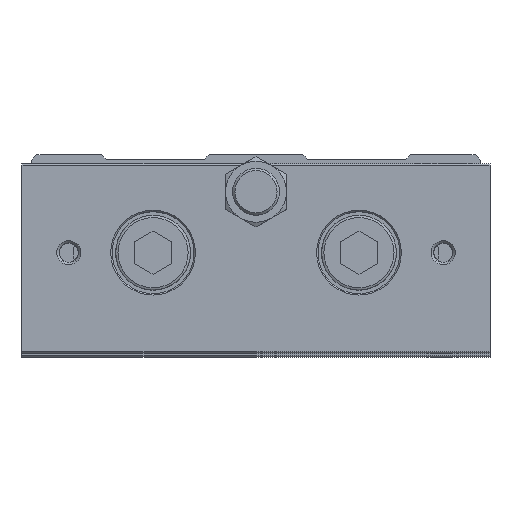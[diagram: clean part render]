
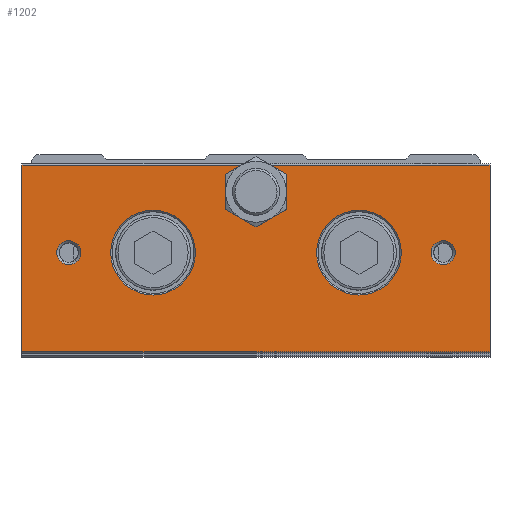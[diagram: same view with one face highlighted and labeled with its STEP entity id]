
A CAD part, top view. The second image highlights one B-rep face of the part: STEP entity #1202.
In plain terms, the highlighted planar face has unit normal (0, 0, 1).
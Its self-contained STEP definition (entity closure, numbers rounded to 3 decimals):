
#1044=CARTESIAN_POINT('',(42.567,-0.75,287.5));
#1045=VERTEX_POINT('',#1044);
#1046=CARTESIAN_POINT('',(40.0,-0.75,287.5));
#1047=DIRECTION('',(0.0,0.0,1.0));
#1048=DIRECTION('',(-1.0,0.0,0.0));
#1049=AXIS2_PLACEMENT_3D('',#1046,#1047,#1048);
#1050=CIRCLE('',#1049,2.567);
#1051=EDGE_CURVE('',#1045,#1045,#1050,.T.);
#1056=CARTESIAN_POINT('',(0.0,-22.25,287.5));
#1057=DIRECTION('',(0.0,0.0,1.0));
#1058=DIRECTION('',(1.0,0.0,0.0));
#1059=AXIS2_PLACEMENT_3D('',#1056,#1057,#1058);
#1060=PLANE('',#1059);
#1061=CARTESIAN_POINT('',(50.0,-21.95,287.5));
#1062=VERTEX_POINT('',#1061);
#1063=CARTESIAN_POINT('',(-50.0,-21.95,287.5));
#1064=VERTEX_POINT('',#1063);
#1065=CARTESIAN_POINT('',(50.0,-21.95,287.5));
#1066=DIRECTION('',(-1.0,0.0,0.0));
#1067=VECTOR('',#1066,100.0);
#1068=LINE('',#1065,#1067);
#1069=EDGE_CURVE('',#1062,#1064,#1068,.T.);
#1070=ORIENTED_EDGE('',*,*,#1069,.F.);
#1071=CARTESIAN_POINT('',(50.0,17.95,287.5));
#1072=VERTEX_POINT('',#1071);
#1073=CARTESIAN_POINT('',(50.0,-21.95,287.5));
#1074=DIRECTION('',(0.0,1.0,0.0));
#1075=VECTOR('',#1074,39.9);
#1076=LINE('',#1073,#1075);
#1077=EDGE_CURVE('',#1062,#1072,#1076,.T.);
#1078=ORIENTED_EDGE('',*,*,#1077,.T.);
#1079=CARTESIAN_POINT('',(3.124,17.95,287.5));
#1080=VERTEX_POINT('',#1079);
#1081=CARTESIAN_POINT('',(3.124,17.95,287.5));
#1082=DIRECTION('',(1.0,0.0,0.0));
#1083=VECTOR('',#1082,46.876);
#1084=LINE('',#1081,#1083);
#1085=EDGE_CURVE('',#1080,#1072,#1084,.T.);
#1086=ORIENTED_EDGE('',*,*,#1085,.F.);
#1087=CARTESIAN_POINT('',(3.25,17.879,287.5));
#1088=VERTEX_POINT('',#1087);
#1089=CARTESIAN_POINT('',(0.0,12.25,287.5));
#1090=DIRECTION('',(0.0,0.0,1.0));
#1091=DIRECTION('',(0.0,1.0,0.0));
#1092=AXIS2_PLACEMENT_3D('',#1089,#1090,#1091);
#1093=CIRCLE('',#1092,6.5);
#1094=EDGE_CURVE('',#1088,#1080,#1093,.T.);
#1095=ORIENTED_EDGE('',*,*,#1094,.F.);
#1096=CARTESIAN_POINT('',(6.5,12.25,287.5));
#1097=VERTEX_POINT('',#1096);
#1098=CARTESIAN_POINT('',(0.0,12.25,287.5));
#1099=DIRECTION('',(0.0,0.0,1.0));
#1100=DIRECTION('',(0.0,1.0,0.0));
#1101=AXIS2_PLACEMENT_3D('',#1098,#1099,#1100);
#1102=CIRCLE('',#1101,6.5);
#1103=EDGE_CURVE('',#1097,#1088,#1102,.T.);
#1104=ORIENTED_EDGE('',*,*,#1103,.F.);
#1105=CARTESIAN_POINT('',(3.25,6.621,287.5));
#1106=VERTEX_POINT('',#1105);
#1107=CARTESIAN_POINT('',(0.0,12.25,287.5));
#1108=DIRECTION('',(0.0,0.0,1.0));
#1109=DIRECTION('',(0.0,1.0,0.0));
#1110=AXIS2_PLACEMENT_3D('',#1107,#1108,#1109);
#1111=CIRCLE('',#1110,6.5);
#1112=EDGE_CURVE('',#1106,#1097,#1111,.T.);
#1113=ORIENTED_EDGE('',*,*,#1112,.F.);
#1114=CARTESIAN_POINT('',(-3.25,6.621,287.5));
#1115=VERTEX_POINT('',#1114);
#1116=CARTESIAN_POINT('',(0.0,12.25,287.5));
#1117=DIRECTION('',(0.0,0.0,1.0));
#1118=DIRECTION('',(0.0,1.0,0.0));
#1119=AXIS2_PLACEMENT_3D('',#1116,#1117,#1118);
#1120=CIRCLE('',#1119,6.5);
#1121=EDGE_CURVE('',#1115,#1106,#1120,.T.);
#1122=ORIENTED_EDGE('',*,*,#1121,.F.);
#1123=CARTESIAN_POINT('',(-6.5,12.25,287.5));
#1124=VERTEX_POINT('',#1123);
#1125=CARTESIAN_POINT('',(0.0,12.25,287.5));
#1126=DIRECTION('',(0.0,0.0,1.0));
#1127=DIRECTION('',(0.0,1.0,0.0));
#1128=AXIS2_PLACEMENT_3D('',#1125,#1126,#1127);
#1129=CIRCLE('',#1128,6.5);
#1130=EDGE_CURVE('',#1124,#1115,#1129,.T.);
#1131=ORIENTED_EDGE('',*,*,#1130,.F.);
#1132=CARTESIAN_POINT('',(-3.25,17.879,287.5));
#1133=VERTEX_POINT('',#1132);
#1134=CARTESIAN_POINT('',(0.0,12.25,287.5));
#1135=DIRECTION('',(0.0,0.0,1.0));
#1136=DIRECTION('',(0.0,1.0,0.0));
#1137=AXIS2_PLACEMENT_3D('',#1134,#1135,#1136);
#1138=CIRCLE('',#1137,6.5);
#1139=EDGE_CURVE('',#1133,#1124,#1138,.T.);
#1140=ORIENTED_EDGE('',*,*,#1139,.F.);
#1141=CARTESIAN_POINT('',(-3.124,17.95,287.5));
#1142=VERTEX_POINT('',#1141);
#1143=CARTESIAN_POINT('',(0.0,12.25,287.5));
#1144=DIRECTION('',(0.0,0.0,1.0));
#1145=DIRECTION('',(0.0,1.0,0.0));
#1146=AXIS2_PLACEMENT_3D('',#1143,#1144,#1145);
#1147=CIRCLE('',#1146,6.5);
#1148=EDGE_CURVE('',#1142,#1133,#1147,.T.);
#1149=ORIENTED_EDGE('',*,*,#1148,.F.);
#1150=CARTESIAN_POINT('',(-50.0,17.95,287.5));
#1151=VERTEX_POINT('',#1150);
#1152=CARTESIAN_POINT('',(-50.0,17.95,287.5));
#1153=DIRECTION('',(1.0,0.0,0.0));
#1154=VECTOR('',#1153,46.876);
#1155=LINE('',#1152,#1154);
#1156=EDGE_CURVE('',#1151,#1142,#1155,.T.);
#1157=ORIENTED_EDGE('',*,*,#1156,.F.);
#1158=CARTESIAN_POINT('',(-50.0,17.95,287.5));
#1159=DIRECTION('',(0.0,-1.0,0.0));
#1160=VECTOR('',#1159,39.9);
#1161=LINE('',#1158,#1160);
#1162=EDGE_CURVE('',#1151,#1064,#1161,.T.);
#1163=ORIENTED_EDGE('',*,*,#1162,.T.);
#1164=EDGE_LOOP('',(#1070,#1078,#1086,#1095,#1104,#1113,#1122,#1131,#1140,#1149,#1157,#1163));
#1165=FACE_OUTER_BOUND('',#1164,.T.);
#1166=CARTESIAN_POINT('',(-37.433,-0.75,287.5));
#1167=VERTEX_POINT('',#1166);
#1168=CARTESIAN_POINT('',(-40.0,-0.75,287.5));
#1169=DIRECTION('',(0.0,0.0,1.0));
#1170=DIRECTION('',(-1.0,0.0,0.0));
#1171=AXIS2_PLACEMENT_3D('',#1168,#1169,#1170);
#1172=CIRCLE('',#1171,2.567);
#1173=EDGE_CURVE('',#1167,#1167,#1172,.T.);
#1174=ORIENTED_EDGE('',*,*,#1173,.F.);
#1175=EDGE_LOOP('',(#1174));
#1176=FACE_BOUND('',#1175,.T.);
#1177=CARTESIAN_POINT('',(-12.95,-0.75,287.5));
#1178=VERTEX_POINT('',#1177);
#1179=CARTESIAN_POINT('',(-22.0,-0.75,287.5));
#1180=DIRECTION('',(0.0,0.0,1.0));
#1181=DIRECTION('',(-1.0,0.0,0.0));
#1182=AXIS2_PLACEMENT_3D('',#1179,#1180,#1181);
#1183=CIRCLE('',#1182,9.05);
#1184=EDGE_CURVE('',#1178,#1178,#1183,.T.);
#1185=ORIENTED_EDGE('',*,*,#1184,.F.);
#1186=EDGE_LOOP('',(#1185));
#1187=FACE_BOUND('',#1186,.T.);
#1188=CARTESIAN_POINT('',(31.05,-0.75,287.5));
#1189=VERTEX_POINT('',#1188);
#1190=CARTESIAN_POINT('',(22.0,-0.75,287.5));
#1191=DIRECTION('',(0.0,0.0,1.0));
#1192=DIRECTION('',(-1.0,0.0,0.0));
#1193=AXIS2_PLACEMENT_3D('',#1190,#1191,#1192);
#1194=CIRCLE('',#1193,9.05);
#1195=EDGE_CURVE('',#1189,#1189,#1194,.T.);
#1196=ORIENTED_EDGE('',*,*,#1195,.F.);
#1197=EDGE_LOOP('',(#1196));
#1198=FACE_BOUND('',#1197,.T.);
#1199=ORIENTED_EDGE('',*,*,#1051,.F.);
#1200=EDGE_LOOP('',(#1199));
#1201=FACE_BOUND('',#1200,.T.);
#1202=ADVANCED_FACE('',(#1165,#1176,#1187,#1198,#1201),#1060,.T.);
